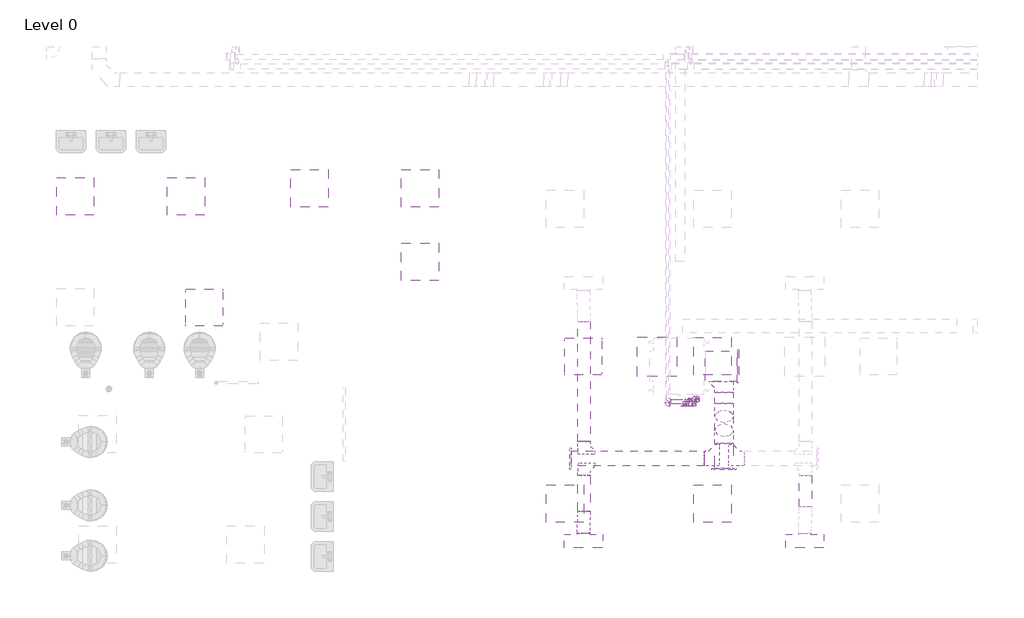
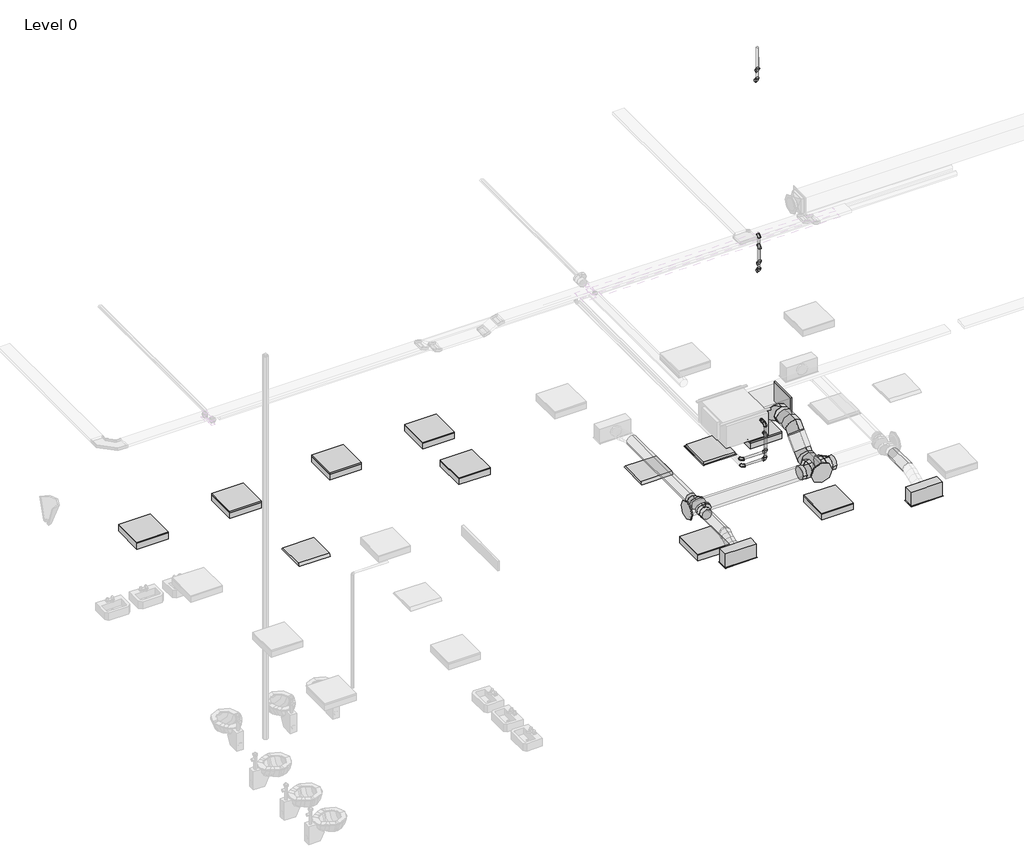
# One storey, part 2 of 34: 14 pipe fittings, 10 duct fittings, 10 light fixtures, 10 pipe segments, 9 duct segments, 3 air terminals.
"""IFC4 building model written with IfcOpenShell, lengths in millimetres."""

from ifc_helpers import new_model, si_unit, point, frame, frame_2d, origin, place, context, project, spatial, polyline, circle_curve, ellipse_curve, trimmed, segment, composite_curve, outline, extrude, transform, mapped, element, save
from ifc_brep_helpers import plane_surface, cylinder_surface, advanced_brep
from components import return_grille_rectangular_hosted_standard_7b12617c, supply_diffuser_with_plenum_linear_slot_hosted_2b730595, dw144_rectangular_blank_end_standard_8fde7d16, dw144_round_blank_end_standard_f82b0856, dw144_round_blank_end_standard_9aa061e7, dw144_round_segmented_bend_slip_joint_standard_8b80c5ae, dw144_round_shoe_branch_slip_joint1_standard_2_15a2edd8, dw144_round_shoe_branch_slip_joint1_standard_2_7ba9e4ed, dw144_round_shoe_branch_slip_joint1_standard_2_67b64720, light_fixture_b730b5ca, troffer_light_2x2_parabolic_2_x2_2_lamp_120v_6a063ff3, elbow_threaded_gmi_standard_b4aa7741, socket_reducing_threaded_gmi_standard_0a4076b8

model = new_model("IFC4")

# Units and contexts
model_context = context("Model", 3, world=origin())
ifc_project = project(units=[si_unit("LENGTHUNIT", "METRE", prefix="MILLI")], contexts=[model_context])

# Site, building, storey
site = spatial("IfcSite", under=ifc_project)
building = spatial("IfcBuilding", under=site)
storey = spatial("IfcBuildingStorey", under=building, Name="Level 0", Elevation=0.0)

# Air terminals
placement = place(None, origin())
return_grille_rectangular_hosted_standard_shape = return_grille_rectangular_hosted_standard_7b12617c(model_context)
element("IfcAirTerminal", 1, ObjectType="Return Grille - Rectangular - Hosted : Standard", at=placement, inside=storey, context=model_context, shape_type="MappedRepresentation", body=[
    mapped(return_grille_rectangular_hosted_standard_shape, transform((10362.2000027, 3963.2000004, 2800.0), x_axis=(1.0, 0.0, 0.0), y_axis=(0.0, -1.0, 0.0), z_axis=(0.0, 0.0, -1.0))),
])
supply_diffuser_with_plenum_linear_slot_hosted_shape = supply_diffuser_with_plenum_linear_slot_hosted_2b730595(model_context)
element("IfcAirTerminal", 2, ObjectType="Supply Diffuser with Plenum - Linear Slot - Hosted : 24\" x 8\"-200 In Inlet  4-Slot", at=placement, inside=storey, context=model_context, shape_type="MappedRepresentation", body=[
    mapped(supply_diffuser_with_plenum_linear_slot_hosted_shape, transform((9162.2000027, 963.2000004, 2800.0), x_axis=(1.0, 0.0, 0.0), y_axis=(0.0, -1.0, 0.0), z_axis=(0.0, 0.0, -1.0))),
])
element("IfcAirTerminal", 3, ObjectType="Supply Diffuser with Plenum - Linear Slot - Hosted : 24\" x 8\"-200 In Inlet  4-Slot", at=placement, inside=storey, context=model_context, shape_type="MappedRepresentation", body=[
    mapped(supply_diffuser_with_plenum_linear_slot_hosted_shape, transform((12762.2000027, 963.2000004, 2800.0), x_axis=(1.0, 0.0, 0.0), y_axis=(0.0, -1.0, 0.0), z_axis=(0.0, 0.0, -1.0))),
])

# Duct fittings
dw144_rectangular_blank_end_standard_shape = dw144_rectangular_blank_end_standard_8fde7d16(model_context)
element("IfcDuctFitting", 4, ObjectType="DW144 Rectangular Blank End : Standard", at=placement, inside=storey, context=model_context, shape_type="MappedRepresentation", body=[
    mapped(dw144_rectangular_blank_end_standard_shape, transform((11666.2561025, 3806.0000004, 3476.3911538), x_axis=(1.0, 0.0, 0.0), y_axis=(0.0, 1.0, 0.0), z_axis=(0.0, 0.0, 1.0))),
])
dw144_round_blank_end_standard_shape = dw144_round_blank_end_standard_f82b0856(model_context)
element("IfcDuctFitting", 5, ObjectType="DW144 Round Blank End : Standard", at=placement, inside=storey, context=model_context, shape_type="MappedRepresentation", body=[
    mapped(dw144_round_blank_end_standard_shape, transform((11451.4561025, 2142.9916128, 3072.2088531), x_axis=(0.0, -1.0, 0.0), y_axis=(1.0, 0.0, 0.0), z_axis=(0.0, 0.0, 1.0))),
])
dw144_round_blank_end_standard_2_shape = dw144_round_blank_end_standard_9aa061e7(model_context)
element("IfcDuctFitting", 6, ObjectType="DW144 Round Blank End : Standard", at=placement, inside=storey, context=model_context, shape_type="MappedRepresentation", body=[
    mapped(dw144_round_blank_end_standard_2_shape, transform((8961.4561025, 2306.5018192, 3072.2088531), x_axis=(-1.0, 0.0, 0.0), y_axis=(0.0, -1.0, 0.0), z_axis=(0.0, 0.0, 1.0))),
])
dw144_round_segmented_bend_slip_joint_standard_shape = dw144_round_segmented_bend_slip_joint_standard_8b80c5ae(model_context)
element("IfcDuctFitting", 7, ObjectType="DW144 Round Segmented Bend - Slip Joint : Standard", at=placement, inside=storey, context=model_context, shape_type="MappedRepresentation", body=[
    mapped(dw144_round_segmented_bend_slip_joint_standard_shape, transform((11451.4561025, 2678.6338536, 3072.2088531), x_axis=(0.0, -0.7071067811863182, -0.7071067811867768), y_axis=(0.0, 0.7071067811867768, -0.7071067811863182), z_axis=(1.0, 0.0, 0.0))),
])
element("IfcDuctFitting", 8, ObjectType="DW144 Round Segmented Bend - Slip Joint : Standard", at=placement, inside=storey, context=model_context, shape_type="MappedRepresentation", body=[
    mapped(dw144_round_segmented_bend_slip_joint_standard_shape, transform((11451.4561025, 3076.0000004, 3469.575), x_axis=(0.0, -1.0, 0.0), y_axis=(0.0, 0.0, 1.0), z_axis=(-1.0, 0.0, 0.0))),
])
dw144_round_shoe_branch_slip_joint1_standard_2_shape = dw144_round_shoe_branch_slip_joint1_standard_2_15a2edd8(model_context)
element("IfcDuctFitting", 9, ObjectType="DW144 Round Shoe Branch - Slip Joint1 : Standard 2", at=placement, inside=storey, context=model_context, shape_type="MappedRepresentation", body=[
    mapped(dw144_round_shoe_branch_slip_joint1_standard_2_shape, transform((9173.9000022, 2181.5018192, 3072.2088531), x_axis=(0.0, -1.0, 0.0), y_axis=(-1.0, 0.0, 0.0), z_axis=(0.0, 0.0, -1.0))),
])
element("IfcDuctFitting", 10, ObjectType="DW144 Round Shoe Branch - Slip Joint1 : Standard 2", at=placement, inside=storey, context=model_context, shape_type="MappedRepresentation", body=[
    mapped(dw144_round_shoe_branch_slip_joint1_standard_2_shape, transform((9173.9000022, 2431.5018192, 3072.2088531), x_axis=(0.0, 1.0, 0.0), y_axis=(-1.0, 0.0, 0.0), z_axis=(0.0, 0.0, 1.0))),
])
dw144_round_shoe_branch_slip_joint1_standard_2_2_shape = dw144_round_shoe_branch_slip_joint1_standard_2_7ba9e4ed(model_context)
element("IfcDuctFitting", 11, ObjectType="DW144 Round Shoe Branch - Slip Joint1 : Standard 2", at=placement, inside=storey, context=model_context, shape_type="MappedRepresentation", body=[
    mapped(dw144_round_shoe_branch_slip_joint1_standard_2_2_shape, transform((11451.4561025, 3556.0000004, 3469.575), x_axis=(0.0, -1.0, 0.0), y_axis=(-1.0, 0.0, 0.0), z_axis=(0.0, 0.0, -1.0))),
])
dw144_round_shoe_branch_slip_joint1_standard_2_3_shape = dw144_round_shoe_branch_slip_joint1_standard_2_67b64720(model_context)
element("IfcDuctFitting", 12, ObjectType="DW144 Round Shoe Branch - Slip Joint1 : Standard 2", at=placement, inside=storey, context=model_context, shape_type="MappedRepresentation", body=[
    mapped(dw144_round_shoe_branch_slip_joint1_standard_2_3_shape, transform((11601.4561025, 2306.5018192, 3072.2088531), x_axis=(1.0, 0.0, 0.0), y_axis=(0.0, -1.0, 0.0), z_axis=(0.0, 0.0, -1.0))),
])
element("IfcDuctFitting", 13, ObjectType="DW144 Round Shoe Branch - Slip Joint1 : Standard 2", at=placement, inside=storey, context=model_context, shape_type="MappedRepresentation", body=[
    mapped(dw144_round_shoe_branch_slip_joint1_standard_2_3_shape, transform((11301.4561025, 2306.5018192, 3072.2088531), x_axis=(-1.0, 0.0, 0.0), y_axis=(0.0, -1.0, 0.0), z_axis=(0.0, 0.0, 1.0))),
])

# Duct segments
element("IfcDuctSegment", 14, ObjectType="DW144 Flanged Med Radius Bend / Shoe Branch", at=placement, inside=storey, context=model_context, shape_type="SweptSolid", body=[
    extrude(outline(polyline([(11146.6561025, 3556.0000004), (11146.6561025, 4056.0000004), (11666.2561025, 4056.0000004), (11666.2561025, 3556.0000004), (11146.6561025, 3556.0000004)])), frame((0.0, 0.0, 3301.3911538), z_axis=(0.0, 0.0, 1.0), x_axis=(1.0, 0.0, 0.0)), (0.0, 0.0, 1.0), 350.0),
])
element("IfcDuctSegment", 15, ObjectType="DW144 Segmented Bend / Shoe Branch", at=placement, inside=storey, context=model_context, shape_type="SweptSolid", body=[
    extrude(outline(composite_curve([segment(trimmed(circle_curve(frame_2d((3469.575, 11451.4561025)), 150.0), [point((3469.575, 11301.4561025))], [point((3319.575, 11451.4561025))], False, "CARTESIAN"), True, "CONTINUOUS"), segment(trimmed(circle_curve(frame_2d((3469.575, 11451.4561025)), 150.0), [point((3319.575, 11451.4561025))], [point((3469.575, 11601.4561025))], False, "CARTESIAN"), True, "CONTINUOUS"), segment(trimmed(circle_curve(frame_2d((3469.575, 11451.4561025)), 150.0), [point((3469.575, 11601.4561025))], [point((3619.575, 11451.4561025))], False, "CARTESIAN"), True, "CONTINUOUS"), segment(trimmed(circle_curve(frame_2d((3469.575, 11451.4561025)), 150.0), [point((3619.575, 11451.4561025))], [point((3469.575, 11301.4561025))], False, "CARTESIAN"), True, "CONTINUOUS")], self_intersect=False)), frame((0.0, 3200.2640691, 0.0), z_axis=(0.0, 1.0, 0.0), x_axis=(0.0, 0.0, 1.0)), (0.0, 0.0, 1.0), 180.7359313),
])
element("IfcDuctSegment", 16, ObjectType="DW144 Segmented Bend / Shoe Branch", at=placement, inside=storey, context=model_context, shape_type="SweptSolid", body=[
    extrude(outline(composite_curve([segment(trimmed(circle_curve(frame_2d((3072.2088531, 11451.4561025)), 150.0), [point((3072.2088531, 11301.4561025))], [point((2922.2088531, 11451.4561025))], False, "CARTESIAN"), True, "CONTINUOUS"), segment(trimmed(circle_curve(frame_2d((3072.2088531, 11451.4561025)), 150.0), [point((2922.2088531, 11451.4561025))], [point((3072.2088531, 11601.4561025))], False, "CARTESIAN"), True, "CONTINUOUS"), segment(trimmed(circle_curve(frame_2d((3072.2088531, 11451.4561025)), 150.0), [point((3072.2088531, 11601.4561025))], [point((3222.2088531, 11451.4561025))], False, "CARTESIAN"), True, "CONTINUOUS"), segment(trimmed(circle_curve(frame_2d((3072.2088531, 11451.4561025)), 150.0), [point((3222.2088531, 11451.4561025))], [point((3072.2088531, 11301.4561025))], False, "CARTESIAN"), True, "CONTINUOUS")], self_intersect=False)), frame((0.0, 2142.9916128, 0.0), z_axis=(0.0, 1.0, 0.0), x_axis=(0.0, 0.0, 1.0)), (0.0, 0.0, 1.0), 411.3781721),
])
element("IfcDuctSegment", 17, ObjectType="DW144 Segmented Bend / Shoe Branch", at=placement, inside=storey, context=model_context, shape_type="SweptSolid", body=[
    extrude(outline(composite_curve([segment(trimmed(circle_curve(frame_2d((0.0, -150.0)), 150.0), [point((-150.0, -150.0))], [point((0.0, 0.0))], False, "CARTESIAN"), True, "CONTINUOUS"), segment(trimmed(circle_curve(frame_2d((0.0, -150.0)), 150.0), [point((0.0, 0.0))], [point((150.0, -150.0))], False, "CARTESIAN"), True, "CONTINUOUS"), segment(trimmed(circle_curve(frame_2d((0.0, -150.0)), 150.0), [point((150.0, -150.0))], [point((0.0, -300.0))], False, "CARTESIAN"), True, "CONTINUOUS"), segment(trimmed(circle_curve(frame_2d((0.0, -150.0)), 150.0), [point((0.0, -300.0))], [point((-150.0, -150.0))], False, "CARTESIAN"), True, "CONTINUOUS")], self_intersect=False)), frame((11451.4561025, 2872.5678364, 3054.0108016), z_axis=(0.0, 0.7071067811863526, 0.7071067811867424), x_axis=(1.0, 0.0, 0.0)), (0.0, 0.0, 1.0), 313.4324567),
])
element("IfcDuctSegment", 18, ObjectType="DW144 Segmented Bend / Shoe Branch", at=placement, inside=storey, context=model_context, shape_type="SweptSolid", body=[
    extrude(outline(composite_curve([segment(trimmed(circle_curve(frame_2d((2306.5018192, 3072.2088531)), 125.0), [point((2431.5018192, 3072.2088531))], [point((2306.5018192, 2947.2088531))], False, "CARTESIAN"), True, "CONTINUOUS"), segment(trimmed(circle_curve(frame_2d((2306.5018192, 3072.2088531)), 125.0), [point((2306.5018192, 2947.2088531))], [point((2181.5018192, 3072.2088531))], False, "CARTESIAN"), True, "CONTINUOUS"), segment(trimmed(circle_curve(frame_2d((2306.5018192, 3072.2088531)), 125.0), [point((2181.5018192, 3072.2088531))], [point((2306.5018192, 3197.2088531))], False, "CARTESIAN"), True, "CONTINUOUS"), segment(trimmed(circle_curve(frame_2d((2306.5018192, 3072.2088531)), 125.0), [point((2306.5018192, 3197.2088531))], [point((2431.5018192, 3072.2088531))], False, "CARTESIAN"), True, "CONTINUOUS")], self_intersect=False)), frame((8961.4561025, 0.0, 0.0), z_axis=(1.0, 0.0, 0.0), x_axis=(0.0, 1.0, 0.0)), (0.0, 0.0, 1.0), 2165.0),
])
element("IfcDuctSegment", 19, ObjectType="DW144 Segmented Bend / Shoe Branch", at=placement, inside=storey, context=model_context, shape_type="SweptSolid", body=[
    extrude(outline(composite_curve([segment(trimmed(circle_curve(frame_2d((3072.2088531, 12773.9000022)), 100.0), [point((3072.2088531, 12673.9000022))], [point((2972.2088531, 12773.9000022))], False, "CARTESIAN"), True, "CONTINUOUS"), segment(trimmed(circle_curve(frame_2d((3072.2088531, 12773.9000022)), 100.0), [point((2972.2088531, 12773.9000022))], [point((3072.2088531, 12873.9000022))], False, "CARTESIAN"), True, "CONTINUOUS"), segment(trimmed(circle_curve(frame_2d((3072.2088531, 12773.9000022)), 100.0), [point((3072.2088531, 12873.9000022))], [point((3172.2088531, 12773.9000022))], False, "CARTESIAN"), True, "CONTINUOUS"), segment(trimmed(circle_curve(frame_2d((3072.2088531, 12773.9000022)), 100.0), [point((3172.2088531, 12773.9000022))], [point((3072.2088531, 12673.9000022))], False, "CARTESIAN"), True, "CONTINUOUS")], self_intersect=False)), frame((0.0, 1521.5018192, 0.0), z_axis=(0.0, 1.0, 0.0), x_axis=(0.0, 0.0, 1.0)), (0.0, 0.0, 1.0), 510.0),
])
element("IfcDuctSegment", 20, ObjectType="DW144 Segmented Bend / Shoe Branch", at=placement, inside=storey, context=model_context, shape_type="SweptSolid", body=[
    extrude(outline(composite_curve([segment(trimmed(circle_curve(frame_2d((3072.2088531, 9173.9000022)), 100.0), [point((3072.2088531, 9273.9000022))], [point((3172.2088531, 9173.9000022))], False, "CARTESIAN"), True, "CONTINUOUS"), segment(trimmed(circle_curve(frame_2d((3072.2088531, 9173.9000022)), 100.0), [point((3172.2088531, 9173.9000022))], [point((3072.2088531, 9073.9000022))], False, "CARTESIAN"), True, "CONTINUOUS"), segment(trimmed(circle_curve(frame_2d((3072.2088531, 9173.9000022)), 100.0), [point((3072.2088531, 9073.9000022))], [point((2972.2088531, 9173.9000022))], False, "CARTESIAN"), True, "CONTINUOUS"), segment(trimmed(circle_curve(frame_2d((3072.2088531, 9173.9000022)), 100.0), [point((2972.2088531, 9173.9000022))], [point((3072.2088531, 9273.9000022))], False, "CARTESIAN"), True, "CONTINUOUS")], self_intersect=False)), frame((0.0, 1441.5018192, 0.0), z_axis=(0.0, 1.0, 0.0), x_axis=(0.0, 0.0, 1.0)), (0.0, 0.0, 1.0), 590.0),
])
element("IfcDuctSegment", 21, ObjectType="DW144 Segmented Bend / Shoe Branch", at=placement, inside=storey, context=model_context, shape_type="SweptSolid", body=[
    extrude(outline(composite_curve([segment(trimmed(circle_curve(frame_2d((3072.2088531, 9173.9000022)), 100.0), [point((3072.2088531, 9273.9000022))], [point((3172.2088531, 9173.9000022))], False, "CARTESIAN"), True, "CONTINUOUS"), segment(trimmed(circle_curve(frame_2d((3072.2088531, 9173.9000022)), 100.0), [point((3172.2088531, 9173.9000022))], [point((3072.2088531, 9073.9000022))], False, "CARTESIAN"), True, "CONTINUOUS"), segment(trimmed(circle_curve(frame_2d((3072.2088531, 9173.9000022)), 100.0), [point((3072.2088531, 9073.9000022))], [point((2972.2088531, 9173.9000022))], False, "CARTESIAN"), True, "CONTINUOUS"), segment(trimmed(circle_curve(frame_2d((3072.2088531, 9173.9000022)), 100.0), [point((2972.2088531, 9173.9000022))], [point((3072.2088531, 9273.9000022))], False, "CARTESIAN"), True, "CONTINUOUS")], self_intersect=False)), frame((0.0, 2581.5018192, 0.0), z_axis=(0.0, 1.0, 0.0), x_axis=(0.0, 0.0, 1.0)), (0.0, 0.0, 1.0), 1950.0),
])
element("IfcDuctSegment", 22, ObjectType="Flex - Round", at=placement, inside=storey, context=model_context, shape_type="AdvancedBrep", body=[
    advanced_brep(
    [(9273.9000022, 1441.5018192, 3072.2088531), (9173.9000022, 1441.5018192, 2972.2088531), (9073.9000022, 1441.5018192, 3072.2088531), (9173.9000022, 1441.5018192, 3172.2088531), (9273.9000022, 1420.0995917, 3072.2088531), (9173.9000022, 1434.401614, 2972.2088531), (9073.9000022, 1422.6837186, 3072.2088531), (9173.9000022, 1408.3816962, 3172.2088531), (9262.2000027, 1090.2000004, 2954.4), (9162.2000027, 1090.2000004, 3054.4), (9062.2000027, 1090.2000004, 2954.4), (9162.2000027, 1090.2000004, 2854.4), (9272.0161428, 1348.4444846, 3053.2400219), (9172.6330752, 1386.2123534, 2959.4519962), (9072.1276118, 1355.2684822, 3054.3624177), (9171.5106794, 1317.5006134, 3148.1504435), (9267.9561574, 1261.6239384, 3012.3594887), (9168.9949403, 1308.4128474, 2922.8191318), (9068.1438475, 1270.0778812, 3014.2493644), (9167.1050646, 1223.2889723, 3103.7897213), (9263.9723931, 1176.4333374, 2972.2464354), (9164.5893255, 1214.2012062, 2878.4584097), (9064.0838621, 1183.257335, 2973.3688312), (9163.4669297, 1145.4894662, 3067.1568569), (9262.2000027, 1109.0181011, 2954.4), (9162.2000027, 1123.3201234, 2854.4), (9062.2000027, 1111.602228, 2954.4), (9162.2000027, 1097.3002057, 3054.4)],
    [
        (0, 1, circle_curve(frame((9173.9000022, 1441.5018192, 3072.2088531), z_axis=(0.0, 1.0, 0.0), x_axis=(1.0, 0.0, 0.0)), 100.0)),
        (1, 2, circle_curve(frame((9173.9000022, 1441.5018192, 3072.2088531), z_axis=(0.0, 1.0, 0.0), x_axis=(1.0, 0.0, 0.0)), 100.0)),
        (2, 3, circle_curve(frame((9173.9000022, 1441.5018192, 3072.2088531), z_axis=(0.0, 1.0, 0.0), x_axis=(1.0, 0.0, 0.0)), 100.0)),
        (3, 0, circle_curve(frame((9173.9000022, 1441.5018192, 3072.2088531), z_axis=(0.0, 1.0, 0.0), x_axis=(1.0, 0.0, 0.0)), 100.0)),
        (0, 4),
        (4, 5, ellipse_curve(frame((9173.9000022, 1421.3916551, 3072.2088531), z_axis=(0.01281160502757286, 0.9915616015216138, 0.1290017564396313), x_axis=(-0.09799329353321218, 0.12963637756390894, -0.9867075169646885)), 100.8510211, 100.0)),
        (5, 1),
        (5, 6, ellipse_curve(frame((9173.9000022, 1421.3916551, 3072.2088531), z_axis=(0.01281160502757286, 0.9915616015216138, 0.1290017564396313), x_axis=(-0.09799329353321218, 0.12963637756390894, -0.9867075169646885)), 100.8510211, 100.0)),
        (6, 2),
        (6, 7, ellipse_curve(frame((9173.9000022, 1421.3916551, 3072.2088531), z_axis=(0.01281160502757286, 0.9915616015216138, 0.1290017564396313), x_axis=(-0.09799329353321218, 0.12963637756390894, -0.9867075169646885)), 100.8510211, 100.0)),
        (7, 3),
        (7, 4, ellipse_curve(frame((9173.9000022, 1421.3916551, 3072.2088531), z_axis=(0.01281160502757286, 0.9915616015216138, 0.1290017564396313), x_axis=(-0.09799329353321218, 0.12963637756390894, -0.9867075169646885)), 100.8510211, 100.0)),
        (8, 9, circle_curve(frame((9162.2000027, 1090.2000004, 2954.4), z_axis=(0.0, -1.0, 0.0), x_axis=(1.0, 0.0, 0.0)), 100.0)),
        (9, 10, circle_curve(frame((9162.2000027, 1090.2000004, 2954.4), z_axis=(0.0, -1.0, 0.0), x_axis=(1.0, 0.0, 0.0)), 100.0)),
        (10, 11, circle_curve(frame((9162.2000027, 1090.2000004, 2954.4), z_axis=(0.0, -1.0, 0.0), x_axis=(1.0, 0.0, 0.0)), 100.0)),
        (11, 8, circle_curve(frame((9162.2000027, 1090.2000004, 2954.4), z_axis=(0.0, -1.0, 0.0), x_axis=(1.0, 0.0, 0.0)), 100.0)),
        (4, 12),
        (12, 13, ellipse_curve(frame((9172.0718773, 1351.8564834, 3053.8012198), z_axis=(0.03397887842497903, 0.9390352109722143, 0.342137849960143), x_axis=(-0.09280225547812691, 0.34382098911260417, -0.9344382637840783)), 100.4152859, 100.0)),
        (13, 5),
        (13, 14, ellipse_curve(frame((9172.0718773, 1351.8564834, 3053.8012198), z_axis=(0.03397887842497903, 0.9390352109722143, 0.342137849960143), x_axis=(-0.09280225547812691, 0.34382098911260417, -0.9344382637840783)), 100.4152859, 100.0)),
        (14, 6),
        (14, 15, ellipse_curve(frame((9172.0718773, 1351.8564834, 3053.8012198), z_axis=(0.03397887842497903, 0.9390352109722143, 0.342137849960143), x_axis=(-0.09280225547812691, 0.34382098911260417, -0.9344382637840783)), 100.4152859, 100.0)),
        (15, 7),
        (15, 12, ellipse_curve(frame((9172.0718773, 1351.8564834, 3053.8012198), z_axis=(0.03397887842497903, 0.9390352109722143, 0.342137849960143), x_axis=(-0.09280225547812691, 0.34382098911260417, -0.9344382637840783)), 100.4152859, 100.0)),
        (12, 16),
        (16, 17, circle_curve(frame((9168.0500024, 1265.8509098, 3013.3044266), z_axis=(0.04226971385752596, 0.9039144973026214, 0.42561937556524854), x_axis=(0.9990615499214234, -0.04226971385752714, -0.009449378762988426)), 100.0)),
        (17, 13),
        (17, 18, circle_curve(frame((9168.0500024, 1265.8509098, 3013.3044266), z_axis=(0.04226971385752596, 0.9039144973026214, 0.42561937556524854), x_axis=(0.9990615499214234, -0.04226971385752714, -0.009449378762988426)), 100.0)),
        (18, 14),
        (18, 19, circle_curve(frame((9168.0500024, 1265.8509098, 3013.3044266), z_axis=(0.04226971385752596, 0.9039144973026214, 0.42561937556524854), x_axis=(0.9990615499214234, -0.04226971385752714, -0.009449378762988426)), 100.0)),
        (19, 15),
        (19, 16, circle_curve(frame((9168.0500024, 1265.8509098, 3013.3044266), z_axis=(0.04226971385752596, 0.9039144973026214, 0.42561937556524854), x_axis=(0.9990615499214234, -0.04226971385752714, -0.009449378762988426)), 100.0)),
        (16, 20),
        (20, 21, ellipse_curve(frame((9164.0281276, 1179.8453362, 2972.8076333), z_axis=(0.033978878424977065, 0.9390352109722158, 0.34213784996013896), x_axis=(0.09280225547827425, -0.3438209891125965, 0.9344382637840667)), 100.4152859, 100.0)),
        (21, 17),
        (21, 22, ellipse_curve(frame((9164.0281276, 1179.8453362, 2972.8076333), z_axis=(0.033978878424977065, 0.9390352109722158, 0.34213784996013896), x_axis=(0.09280225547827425, -0.3438209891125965, 0.9344382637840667)), 100.4152859, 100.0)),
        (22, 18),
        (22, 23, ellipse_curve(frame((9164.0281276, 1179.8453362, 2972.8076333), z_axis=(0.033978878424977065, 0.9390352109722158, 0.34213784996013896), x_axis=(0.09280225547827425, -0.3438209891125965, 0.9344382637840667)), 100.4152859, 100.0)),
        (23, 19),
        (23, 20, ellipse_curve(frame((9164.0281276, 1179.8453362, 2972.8076333), z_axis=(0.033978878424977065, 0.9390352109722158, 0.34213784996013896), x_axis=(0.09280225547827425, -0.3438209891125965, 0.9344382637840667)), 100.4152859, 100.0)),
        (20, 24),
        (24, 25, ellipse_curve(frame((9162.2000027, 1110.3101645, 2954.4), z_axis=(0.012811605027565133, 0.9915616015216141, 0.12900175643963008), x_axis=(0.09799329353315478, -0.12963637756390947, 0.9867075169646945)), 100.8510211, 100.0)),
        (25, 21),
        (25, 26, ellipse_curve(frame((9162.2000027, 1110.3101645, 2954.4), z_axis=(0.012811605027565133, 0.9915616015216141, 0.12900175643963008), x_axis=(0.09799329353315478, -0.12963637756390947, 0.9867075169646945)), 100.8510211, 100.0)),
        (26, 22),
        (26, 27, ellipse_curve(frame((9162.2000027, 1110.3101645, 2954.4), z_axis=(0.012811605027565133, 0.9915616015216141, 0.12900175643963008), x_axis=(0.09799329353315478, -0.12963637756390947, 0.9867075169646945)), 100.8510211, 100.0)),
        (27, 23),
        (27, 24, ellipse_curve(frame((9162.2000027, 1110.3101645, 2954.4), z_axis=(0.012811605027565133, 0.9915616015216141, 0.12900175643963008), x_axis=(0.09799329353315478, -0.12963637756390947, 0.9867075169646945)), 100.8510211, 100.0)),
        (24, 8),
        (11, 25),
        (10, 26),
        (9, 27),
    ],
    [
        plane_surface(frame((9073.9000022, 1441.5018192, 3072.2088531), z_axis=(0.0, 1.0, 0.0), x_axis=(0.0, 0.0, -1.0))),
        cylinder_surface(frame((9173.9000022, 1441.5018192, 3072.2088531), z_axis=(0.0, 1.0, 0.0), x_axis=(1.0, 0.0, 0.0)), 100.0),
        plane_surface(frame((9062.2000027, 1090.2000004, 2954.4), z_axis=(0.0, -1.0, 0.0), x_axis=(0.0, 0.0, -1.0))),
        cylinder_surface(frame((9173.9000022, 1421.3916551, 3072.2088531), z_axis=(0.025406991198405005, 0.966388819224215, 0.25582637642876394), x_axis=(0.9996717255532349, -0.025406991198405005, -0.0033054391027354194)), 100.0),
        cylinder_surface(frame((9172.0718773, 1351.8564834, 3053.8012198), z_axis=(0.04226971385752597, 0.9039144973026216, 0.42561937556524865), x_axis=(0.9990615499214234, -0.04226971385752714, -0.009449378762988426)), 100.0),
        cylinder_surface(frame((9168.0500024, 1265.8509098, 3013.3044266), z_axis=(0.04226971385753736, 0.9039144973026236, 0.42561937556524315), x_axis=(0.9990615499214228, -0.0422697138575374, -0.009449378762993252)), 100.0),
        cylinder_surface(frame((9164.0281276, 1179.8453362, 2972.8076333), z_axis=(0.025406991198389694, 0.9663888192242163, 0.2558263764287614), x_axis=(0.9996717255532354, -0.025406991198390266, -0.0033054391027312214)), 100.0),
        cylinder_surface(frame((9162.2000027, 1110.3101645, 2954.4), z_axis=(0.0, 1.0, 0.0), x_axis=(1.0, 0.0, 0.0)), 100.0),
    ],
    [
        (0, [[1, 2, 3, 4]]),
        (1, [[-1, 5, 6, 7]]),
        (1, [[-2, -7, 8, 9]]),
        (1, [[-3, -9, 10, 11]]),
        (1, [[-4, -11, 12, -5]]),
        (2, [[13, 14, 15, 16]]),
        (3, [[-6, 17, 18, 19]]),
        (3, [[-8, -19, 20, 21]]),
        (3, [[-10, -21, 22, 23]]),
        (3, [[-12, -23, 24, -17]]),
        (4, [[-18, 25, 26, 27]]),
        (4, [[-20, -27, 28, 29]]),
        (4, [[-22, -29, 30, 31]]),
        (4, [[-24, -31, 32, -25]]),
        (5, [[-26, 33, 34, 35]]),
        (5, [[-28, -35, 36, 37]]),
        (5, [[-30, -37, 38, 39]]),
        (5, [[-32, -39, 40, -33]]),
        (6, [[-34, 41, 42, 43]]),
        (6, [[-36, -43, 44, 45]]),
        (6, [[-38, -45, 46, 47]]),
        (6, [[-40, -47, 48, -41]]),
        (7, [[-42, 49, -16, 50]]),
        (7, [[-44, -50, -15, 51]]),
        (7, [[-46, -51, -14, 52]]),
        (7, [[-48, -52, -13, -49]]),
    ],
),
])

# Light fixtures
light_fixture_shape = light_fixture_b730b5ca(model_context)
element("IfcLightFixture", 23, ObjectType="ELEKTRA EM Recessed Lighting Fixture : 24\" x 24\" - 230", at=placement, inside=storey, context=model_context, shape_type="MappedRepresentation", body=[
    mapped(light_fixture_shape, transform((8862.2000027, 3663.2000004, 2800.0), x_axis=(1.0, 0.0, 0.0), y_axis=(0.0, -1.0, 0.0), z_axis=(0.0, 0.0, -1.0))),
])
element("IfcLightFixture", 24, ObjectType="ELEKTRA EM Recessed Lighting Fixture : 24\" x 24\" - 230", at=placement, inside=storey, context=model_context, shape_type="MappedRepresentation", body=[
    mapped(light_fixture_shape, transform((2699.8500019, 4463.6000005, 2800.0), x_axis=(1.0, 0.0, 0.0), y_axis=(0.0, -1.0, 0.0), z_axis=(0.0, 0.0, -1.0))),
])
troffer_light_2x2_parabolic_2_x2_2_lamp_120v_shape = troffer_light_2x2_parabolic_2_x2_2_lamp_120v_6a063ff3(model_context)
element("IfcLightFixture", 25, ObjectType="Troffer Light - 2x2 Parabolic : 2'x2'(2 Lamp) - 120V", at=placement, inside=storey, context=model_context, shape_type="MappedRepresentation", body=[
    mapped(troffer_light_2x2_parabolic_2_x2_2_lamp_120v_shape, transform((8862.2000027, 1263.2000004, 2800.0), x_axis=(1.0, 0.0, 0.0), y_axis=(0.0, -1.0, 0.0), z_axis=(0.0, 0.0, -1.0))),
])
element("IfcLightFixture", 26, ObjectType="Troffer Light - 2x2 Parabolic : 2'x2'(2 Lamp) - 120V", at=placement, inside=storey, context=model_context, shape_type="MappedRepresentation", body=[
    mapped(troffer_light_2x2_parabolic_2_x2_2_lamp_120v_shape, transform((11262.2000027, 1263.2000004, 2800.0), x_axis=(1.0, 0.0, 0.0), y_axis=(0.0, -1.0, 0.0), z_axis=(0.0, 0.0, -1.0))),
])
element("IfcLightFixture", 27, ObjectType="Troffer Light - 2x2 Parabolic : 2'x2'(2 Lamp) - 120V", at=placement, inside=storey, context=model_context, shape_type="MappedRepresentation", body=[
    mapped(troffer_light_2x2_parabolic_2_x2_2_lamp_120v_shape, transform((11262.2000027, 3663.2000004, 2800.0), x_axis=(1.0, 0.0, 0.0), y_axis=(0.0, -1.0, 0.0), z_axis=(0.0, 0.0, -1.0))),
])
element("IfcLightFixture", 28, ObjectType="Troffer Light - 2x2 Parabolic : 2'x2'(2 Lamp) - 120V", at=placement, inside=storey, context=model_context, shape_type="MappedRepresentation", body=[
    mapped(troffer_light_2x2_parabolic_2_x2_2_lamp_120v_shape, transform((6508.9500027, 6400.6000005, 2800.0), x_axis=(1.0, 0.0, 0.0), y_axis=(0.0, -1.0, 0.0), z_axis=(0.0, 0.0, -1.0))),
])
element("IfcLightFixture", 29, ObjectType="Troffer Light - 2x2 Parabolic : 2'x2'(2 Lamp) - 120V", at=placement, inside=storey, context=model_context, shape_type="MappedRepresentation", body=[
    mapped(troffer_light_2x2_parabolic_2_x2_2_lamp_120v_shape, transform((4708.9500027, 6400.6000005, 2800.0), x_axis=(1.0, 0.0, 0.0), y_axis=(0.0, -1.0, 0.0), z_axis=(0.0, 0.0, -1.0))),
])
element("IfcLightFixture", 30, ObjectType="Troffer Light - 2x2 Parabolic : 2'x2'(2 Lamp) - 120V", at=placement, inside=storey, context=model_context, shape_type="MappedRepresentation", body=[
    mapped(troffer_light_2x2_parabolic_2_x2_2_lamp_120v_shape, transform((6508.9500027, 5200.6000005, 2800.0), x_axis=(1.0, 0.0, 0.0), y_axis=(0.0, -1.0, 0.0), z_axis=(0.0, 0.0, -1.0))),
])
element("IfcLightFixture", 31, ObjectType="Troffer Light - 2x2 Parabolic : 2'x2'(2 Lamp) - 120V", at=placement, inside=storey, context=model_context, shape_type="MappedRepresentation", body=[
    mapped(troffer_light_2x2_parabolic_2_x2_2_lamp_120v_shape, transform((899.8500022, 6263.6000007, 2800.0), x_axis=(1.0, 0.0, 0.0), y_axis=(0.0, -1.0, 0.0), z_axis=(0.0, 0.0, -1.0))),
])
element("IfcLightFixture", 32, ObjectType="Troffer Light - 2x2 Parabolic : 2'x2'(2 Lamp) - 120V", at=placement, inside=storey, context=model_context, shape_type="MappedRepresentation", body=[
    mapped(troffer_light_2x2_parabolic_2_x2_2_lamp_120v_shape, transform((2699.8500022, 6263.6000007, 2800.0), x_axis=(1.0, 0.0, 0.0), y_axis=(0.0, -1.0, 0.0), z_axis=(0.0, 0.0, -1.0))),
])

# Pipe fittings
elbow_threaded_gmi_standard_shape = elbow_threaded_gmi_standard_b4aa7741(model_context)
element("IfcPipeFitting", 33, ObjectType="Elbow - Threaded - GMI : Standard", at=placement, inside=storey, context=model_context, shape_type="MappedRepresentation", body=[
    mapped(elbow_threaded_gmi_standard_shape, transform((10815.2441119, 3177.232951, 10693.9343179), x_axis=(0.0, 0.0, -1.0), y_axis=(-1.0, 0.0, 0.0), z_axis=(0.0, 1.0, 0.0))),
])
element("IfcPipeFitting", 34, ObjectType="Elbow - Threaded - GMI : Standard", at=placement, inside=storey, context=model_context, shape_type="MappedRepresentation", body=[
    mapped(elbow_threaded_gmi_standard_shape, transform((10866.0441119, 3246.7427522, 10834.6193977), x_axis=(0.0, 0.0, -1.0), y_axis=(-1.0, 0.0, 0.0), z_axis=(0.0, 1.0, 0.0))),
])
element("IfcPipeFitting", 35, ObjectType="Elbow - Threaded - GMI : Standard", at=placement, inside=storey, context=model_context, shape_type="MappedRepresentation", body=[
    mapped(elbow_threaded_gmi_standard_shape, transform((10848.8561025, 3177.232951, 6793.9343179), x_axis=(0.0, 0.0, -1.0), y_axis=(-1.0, 0.0, 0.0), z_axis=(0.0, 1.0, 0.0))),
])
element("IfcPipeFitting", 36, ObjectType="Elbow - Threaded - GMI : Standard", at=placement, inside=storey, context=model_context, shape_type="MappedRepresentation", body=[
    mapped(elbow_threaded_gmi_standard_shape, transform((10899.6561025, 3246.7427522, 6880.0), x_axis=(0.0, 0.0, -1.0), y_axis=(-1.0, 0.0, 0.0), z_axis=(0.0, 1.0, 0.0))),
])
element("IfcPipeFitting", 37, ObjectType="Elbow - Threaded - GMI : Standard", at=placement, inside=storey, context=model_context, shape_type="MappedRepresentation", body=[
    mapped(elbow_threaded_gmi_standard_shape, transform((10848.8561025, 3177.232951, 7503.3911538), x_axis=(0.0, 0.0, 1.0), y_axis=(0.0, 1.0, 0.0), z_axis=(-1.0, 0.0, 0.0))),
])
element("IfcPipeFitting", 38, ObjectType="Elbow - Threaded - GMI : Standard", at=placement, inside=storey, context=model_context, shape_type="MappedRepresentation", body=[
    mapped(elbow_threaded_gmi_standard_shape, transform((10899.6561025, 3246.7427522, 7223.9911538), x_axis=(0.0, 0.0, 1.0), y_axis=(0.0, 1.0, 0.0), z_axis=(-1.0, 0.0, 0.0))),
])
element("IfcPipeFitting", 39, ObjectType="Elbow - Threaded - GMI : Standard", at=placement, inside=storey, context=model_context, shape_type="MappedRepresentation", body=[
    mapped(elbow_threaded_gmi_standard_shape, transform((10968.8561025, 3177.232951, 2893.9343179), x_axis=(0.0, 0.0, -1.0), y_axis=(-1.0, 0.0, 0.0), z_axis=(0.0, 1.0, 0.0))),
])
element("IfcPipeFitting", 40, ObjectType="Elbow - Threaded - GMI : Standard", at=placement, inside=storey, context=model_context, shape_type="MappedRepresentation", body=[
    mapped(elbow_threaded_gmi_standard_shape, transform((10521.3774685, 3177.232951, 2893.9343179), x_axis=(0.0, -1.0, 0.0), y_axis=(1.0, 0.0, 0.0), z_axis=(0.0, 0.0, 1.0))),
])
element("IfcPipeFitting", 41, ObjectType="Elbow - Threaded - GMI : Standard", at=placement, inside=storey, context=model_context, shape_type="MappedRepresentation", body=[
    mapped(elbow_threaded_gmi_standard_shape, transform((11019.6561025, 3246.7427522, 2980.0), x_axis=(0.0, 0.0, -1.0), y_axis=(-1.0, 0.0, 0.0), z_axis=(0.0, 1.0, 0.0))),
])
element("IfcPipeFitting", 42, ObjectType="Elbow - Threaded - GMI : Standard", at=placement, inside=storey, context=model_context, shape_type="MappedRepresentation", body=[
    mapped(elbow_threaded_gmi_standard_shape, transform((10542.0529581, 3246.7427522, 2980.0), x_axis=(0.0, -1.0, 0.0), y_axis=(1.0, 0.0, 0.0), z_axis=(0.0, 0.0, 1.0))),
])
element("IfcPipeFitting", 43, ObjectType="Elbow - Threaded - GMI : Standard", at=placement, inside=storey, context=model_context, shape_type="MappedRepresentation", body=[
    mapped(elbow_threaded_gmi_standard_shape, transform((11019.6561025, 3246.7427522, 3323.9911538), x_axis=(0.0, 0.0, 1.0), y_axis=(0.0, 1.0, 0.0), z_axis=(-1.0, 0.0, 0.0))),
])
element("IfcPipeFitting", 44, ObjectType="Elbow - Threaded - GMI : Standard", at=placement, inside=storey, context=model_context, shape_type="MappedRepresentation", body=[
    mapped(elbow_threaded_gmi_standard_shape, transform((10968.8561025, 3177.232951, 3603.3911538), x_axis=(0.0, 0.0, 1.0), y_axis=(0.0, 1.0, 0.0), z_axis=(-1.0, 0.0, 0.0))),
])
socket_reducing_threaded_gmi_standard_shape = socket_reducing_threaded_gmi_standard_0a4076b8(model_context)
element("IfcPipeFitting", 45, ObjectType="Socket Reducing - Threaded - GMI : Standard", at=placement, inside=storey, context=model_context, shape_type="MappedRepresentation", body=[
    mapped(socket_reducing_threaded_gmi_standard_shape, transform((11019.6561025, 3323.4000004, 3323.9911538), x_axis=(0.0, -1.0, 0.0), y_axis=(1.0, 0.0, 0.0), z_axis=(0.0, 0.0, 1.0))),
])
element("IfcPipeFitting", 46, ObjectType="Socket Reducing - Threaded - GMI : Standard", at=placement, inside=storey, context=model_context, shape_type="MappedRepresentation", body=[
    mapped(socket_reducing_threaded_gmi_standard_shape, transform((10968.8561025, 3323.4000004, 3603.3911538), x_axis=(0.0, -1.0, 0.0), y_axis=(1.0, 0.0, 0.0), z_axis=(0.0, 0.0, 1.0))),
])

# Pipe segments
element("IfcPipeSegment", 47, ObjectType="Carbon Steel - Threaded", at=placement, inside=storey, context=model_context, shape_type="SweptSolid", body=[
    extrude(outline(composite_curve([segment(trimmed(circle_curve(frame_2d((10815.2441119, 3177.232951)), 21.45), [point((10836.6941119, 3177.232951))], [point((10815.2441119, 3155.782951))], False, "CARTESIAN"), True, "CONTINUOUS"), segment(trimmed(circle_curve(frame_2d((10815.2441119, 3177.232951)), 21.45), [point((10815.2441119, 3155.782951))], [point((10793.7941119, 3177.232951))], False, "CARTESIAN"), True, "CONTINUOUS"), segment(trimmed(circle_curve(frame_2d((10815.2441119, 3177.232951)), 21.45), [point((10793.7941119, 3177.232951))], [point((10815.2441119, 3198.682951))], False, "CARTESIAN"), True, "CONTINUOUS"), segment(trimmed(circle_curve(frame_2d((10815.2441119, 3177.232951)), 21.45), [point((10815.2441119, 3198.682951))], [point((10836.6941119, 3177.232951))], False, "CARTESIAN"), True, "CONTINUOUS")], self_intersect=False)), frame((0.0, 0.0, 10738.9343179), z_axis=(0.0, 0.0, 1.0), x_axis=(1.0, 0.0, 0.0)), (0.0, 0.0, 1.0), 619.4568359),
])
element("IfcPipeSegment", 48, ObjectType="Carbon Steel - Threaded", at=placement, inside=storey, context=model_context, shape_type="SweptSolid", body=[
    extrude(outline(composite_curve([segment(trimmed(circle_curve(frame_2d((10866.0441119, 3246.7427522)), 21.45), [point((10887.4941119, 3246.7427522))], [point((10866.0441119, 3225.2927522))], False, "CARTESIAN"), True, "CONTINUOUS"), segment(trimmed(circle_curve(frame_2d((10866.0441119, 3246.7427522)), 21.45), [point((10866.0441119, 3225.2927522))], [point((10844.5941119, 3246.7427522))], False, "CARTESIAN"), True, "CONTINUOUS"), segment(trimmed(circle_curve(frame_2d((10866.0441119, 3246.7427522)), 21.45), [point((10844.5941119, 3246.7427522))], [point((10866.0441119, 3268.1927522))], False, "CARTESIAN"), True, "CONTINUOUS"), segment(trimmed(circle_curve(frame_2d((10866.0441119, 3246.7427522)), 21.45), [point((10866.0441119, 3268.1927522))], [point((10887.4941119, 3246.7427522))], False, "CARTESIAN"), True, "CONTINUOUS")], self_intersect=False)), frame((0.0, 0.0, 10879.6193977), z_axis=(0.0, 0.0, 1.0), x_axis=(1.0, 0.0, 0.0)), (0.0, 0.0, 1.0), 199.3717561),
])
element("IfcPipeSegment", 49, ObjectType="Carbon Steel - Threaded", at=placement, inside=storey, context=model_context, shape_type="SweptSolid", body=[
    extrude(outline(composite_curve([segment(trimmed(circle_curve(frame_2d((10848.8561025, 3177.232951)), 21.45), [point((10870.3061025, 3177.232951))], [point((10848.8561025, 3155.782951))], False, "CARTESIAN"), True, "CONTINUOUS"), segment(trimmed(circle_curve(frame_2d((10848.8561025, 3177.232951)), 21.45), [point((10848.8561025, 3155.782951))], [point((10827.4061025, 3177.232951))], False, "CARTESIAN"), True, "CONTINUOUS"), segment(trimmed(circle_curve(frame_2d((10848.8561025, 3177.232951)), 21.45), [point((10827.4061025, 3177.232951))], [point((10848.8561025, 3198.682951))], False, "CARTESIAN"), True, "CONTINUOUS"), segment(trimmed(circle_curve(frame_2d((10848.8561025, 3177.232951)), 21.45), [point((10848.8561025, 3198.682951))], [point((10870.3061025, 3177.232951))], False, "CARTESIAN"), True, "CONTINUOUS")], self_intersect=False)), frame((0.0, 0.0, 6838.9343179), z_axis=(0.0, 0.0, 1.0), x_axis=(1.0, 0.0, 0.0)), (0.0, 0.0, 1.0), 619.4568359),
])
element("IfcPipeSegment", 50, ObjectType="Carbon Steel - Threaded", at=placement, inside=storey, context=model_context, shape_type="SweptSolid", body=[
    extrude(outline(composite_curve([segment(trimmed(circle_curve(frame_2d((10899.6561025, 3246.7427522)), 21.45), [point((10921.1061025, 3246.7427522))], [point((10899.6561025, 3225.2927522))], False, "CARTESIAN"), True, "CONTINUOUS"), segment(trimmed(circle_curve(frame_2d((10899.6561025, 3246.7427522)), 21.45), [point((10899.6561025, 3225.2927522))], [point((10878.2061025, 3246.7427522))], False, "CARTESIAN"), True, "CONTINUOUS"), segment(trimmed(circle_curve(frame_2d((10899.6561025, 3246.7427522)), 21.45), [point((10878.2061025, 3246.7427522))], [point((10899.6561025, 3268.1927522))], False, "CARTESIAN"), True, "CONTINUOUS"), segment(trimmed(circle_curve(frame_2d((10899.6561025, 3246.7427522)), 21.45), [point((10899.6561025, 3268.1927522))], [point((10921.1061025, 3246.7427522))], False, "CARTESIAN"), True, "CONTINUOUS")], self_intersect=False)), frame((0.0, 0.0, 6925.0), z_axis=(0.0, 0.0, 1.0), x_axis=(1.0, 0.0, 0.0)), (0.0, 0.0, 1.0), 253.9911538),
])
element("IfcPipeSegment", 51, ObjectType="Carbon Steel - Threaded", at=placement, inside=storey, context=model_context, shape_type="SweptSolid", body=[
    extrude(outline(composite_curve([segment(trimmed(circle_curve(frame_2d((3323.9911538, 11019.6561025)), 21.45), [point((3323.9911538, 10998.2061025))], [point((3302.5411538, 11019.6561025))], False, "CARTESIAN"), True, "CONTINUOUS"), segment(trimmed(circle_curve(frame_2d((3323.9911538, 11019.6561025)), 21.45), [point((3302.5411538, 11019.6561025))], [point((3323.9911538, 11041.1061025))], False, "CARTESIAN"), True, "CONTINUOUS"), segment(trimmed(circle_curve(frame_2d((3323.9911538, 11019.6561025)), 21.45), [point((3323.9911538, 11041.1061025))], [point((3345.4411538, 11019.6561025))], False, "CARTESIAN"), True, "CONTINUOUS"), segment(trimmed(circle_curve(frame_2d((3323.9911538, 11019.6561025)), 21.45), [point((3345.4411538, 11019.6561025))], [point((3323.9911538, 10998.2061025))], False, "CARTESIAN"), True, "CONTINUOUS")], self_intersect=False)), frame((0.0, 3271.4000004, 0.0), z_axis=(0.0, 1.0, 0.0), x_axis=(0.0, 0.0, 1.0)), (0.0, 0.0, 1.0), 20.3427518),
])
element("IfcPipeSegment", 52, ObjectType="Carbon Steel - Threaded", at=placement, inside=storey, context=model_context, shape_type="SweptSolid", body=[
    extrude(outline(composite_curve([segment(trimmed(circle_curve(frame_2d((0.0, 21.45)), 21.45), [point((0.0, 42.9))], [point((21.45, 21.45))], False, "CARTESIAN"), True, "CONTINUOUS"), segment(trimmed(circle_curve(frame_2d((0.0, 21.45)), 21.45), [point((21.45, 21.45))], [point((0.0, 0.0))], False, "CARTESIAN"), True, "CONTINUOUS"), segment(trimmed(circle_curve(frame_2d((0.0, 21.45)), 21.45), [point((0.0, 0.0))], [point((-21.45, 21.45))], False, "CARTESIAN"), True, "CONTINUOUS"), segment(trimmed(circle_curve(frame_2d((0.0, 21.45)), 21.45), [point((-21.45, 21.45))], [point((0.0, 42.9))], False, "CARTESIAN"), True, "CONTINUOUS")], self_intersect=False)), frame((10947.4061025, 3222.232951, 3603.3911538), z_axis=(1.9436076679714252e-12, 1.0, 0.0), x_axis=(0.0, 0.0, 1.0)), (0.0, 0.0, 1.0), 49.1670495),
])
element("IfcPipeSegment", 53, ObjectType="Carbon Steel - Threaded", at=placement, inside=storey, context=model_context, shape_type="SweptSolid", body=[
    extrude(outline(composite_curve([segment(trimmed(circle_curve(frame_2d((10968.8561025, 3177.232951)), 21.45), [point((10990.3061025, 3177.232951))], [point((10968.8561025, 3155.782951))], False, "CARTESIAN"), True, "CONTINUOUS"), segment(trimmed(circle_curve(frame_2d((10968.8561025, 3177.232951)), 21.45), [point((10968.8561025, 3155.782951))], [point((10947.4061025, 3177.232951))], False, "CARTESIAN"), True, "CONTINUOUS"), segment(trimmed(circle_curve(frame_2d((10968.8561025, 3177.232951)), 21.45), [point((10947.4061025, 3177.232951))], [point((10968.8561025, 3198.682951))], False, "CARTESIAN"), True, "CONTINUOUS"), segment(trimmed(circle_curve(frame_2d((10968.8561025, 3177.232951)), 21.45), [point((10968.8561025, 3198.682951))], [point((10990.3061025, 3177.232951))], False, "CARTESIAN"), True, "CONTINUOUS")], self_intersect=False)), frame((0.0, 0.0, 2938.9343179), z_axis=(0.0, 0.0, 1.0), x_axis=(1.0, 0.0, 0.0)), (0.0, 0.0, 1.0), 619.4568359),
])
element("IfcPipeSegment", 54, ObjectType="Carbon Steel - Threaded", at=placement, inside=storey, context=model_context, shape_type="SweptSolid", body=[
    extrude(outline(composite_curve([segment(trimmed(circle_curve(frame_2d((11019.6561025, 3246.7427522)), 21.45), [point((11041.1061025, 3246.7427522))], [point((11019.6561025, 3225.2927522))], False, "CARTESIAN"), True, "CONTINUOUS"), segment(trimmed(circle_curve(frame_2d((11019.6561025, 3246.7427522)), 21.45), [point((11019.6561025, 3225.2927522))], [point((10998.2061025, 3246.7427522))], False, "CARTESIAN"), True, "CONTINUOUS"), segment(trimmed(circle_curve(frame_2d((11019.6561025, 3246.7427522)), 21.45), [point((10998.2061025, 3246.7427522))], [point((11019.6561025, 3268.1927522))], False, "CARTESIAN"), True, "CONTINUOUS"), segment(trimmed(circle_curve(frame_2d((11019.6561025, 3246.7427522)), 21.45), [point((11019.6561025, 3268.1927522))], [point((11041.1061025, 3246.7427522))], False, "CARTESIAN"), True, "CONTINUOUS")], self_intersect=False)), frame((0.0, 0.0, 3025.0), z_axis=(0.0, 0.0, 1.0), x_axis=(1.0, 0.0, 0.0)), (0.0, 0.0, 1.0), 253.9911538),
])
element("IfcPipeSegment", 55, ObjectType="Carbon Steel - Threaded", at=placement, inside=storey, context=model_context, shape_type="SweptSolid", body=[
    extrude(outline(composite_curve([segment(trimmed(circle_curve(frame_2d((3177.232951, 2893.9343179)), 21.45), [point((3198.682951, 2893.9343179))], [point((3177.232951, 2872.4843179))], False, "CARTESIAN"), True, "CONTINUOUS"), segment(trimmed(circle_curve(frame_2d((3177.232951, 2893.9343179)), 21.45), [point((3177.232951, 2872.4843179))], [point((3155.782951, 2893.9343179))], False, "CARTESIAN"), True, "CONTINUOUS"), segment(trimmed(circle_curve(frame_2d((3177.232951, 2893.9343179)), 21.45), [point((3155.782951, 2893.9343179))], [point((3177.232951, 2915.3843179))], False, "CARTESIAN"), True, "CONTINUOUS"), segment(trimmed(circle_curve(frame_2d((3177.232951, 2893.9343179)), 21.45), [point((3177.232951, 2915.3843179))], [point((3198.682951, 2893.9343179))], False, "CARTESIAN"), True, "CONTINUOUS")], self_intersect=False)), frame((10566.3774685, 0.0, 0.0), z_axis=(1.0, 0.0, 0.0), x_axis=(0.0, 1.0, 0.0)), (0.0, 0.0, 1.0), 357.478634),
])
element("IfcPipeSegment", 56, ObjectType="Carbon Steel - Threaded", at=placement, inside=storey, context=model_context, shape_type="SweptSolid", body=[
    extrude(outline(composite_curve([segment(trimmed(circle_curve(frame_2d((3246.7427522, 2980.0)), 21.45), [point((3268.1927522, 2980.0))], [point((3246.7427522, 2958.55))], False, "CARTESIAN"), True, "CONTINUOUS"), segment(trimmed(circle_curve(frame_2d((3246.7427522, 2980.0)), 21.45), [point((3246.7427522, 2958.55))], [point((3225.2927522, 2980.0))], False, "CARTESIAN"), True, "CONTINUOUS"), segment(trimmed(circle_curve(frame_2d((3246.7427522, 2980.0)), 21.45), [point((3225.2927522, 2980.0))], [point((3246.7427522, 3001.45))], False, "CARTESIAN"), True, "CONTINUOUS"), segment(trimmed(circle_curve(frame_2d((3246.7427522, 2980.0)), 21.45), [point((3246.7427522, 3001.45))], [point((3268.1927522, 2980.0))], False, "CARTESIAN"), True, "CONTINUOUS")], self_intersect=False)), frame((10587.0529581, 0.0, 0.0), z_axis=(1.0, 0.0, 0.0), x_axis=(0.0, 1.0, 0.0)), (0.0, 0.0, 1.0), 387.6031444),
])

save(model, "model.ifc")
